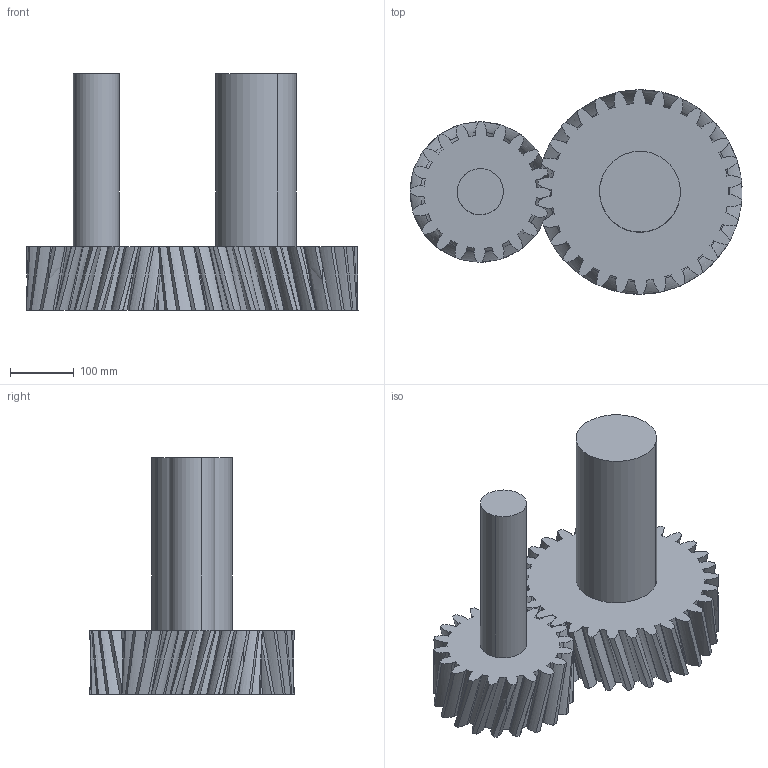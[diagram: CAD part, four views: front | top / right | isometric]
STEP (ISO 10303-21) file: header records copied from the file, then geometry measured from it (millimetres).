
FILE_DESCRIPTION(('CATIA V5 STEP Exchange'),'2;1');
FILE_NAME('C:\Users\YS\Desktop\카티아수업자료\툴바예제\gear.stp','2012-10-30T14:37:45+00:00',('none'),('none'),'CATIA Version 5 Release 18 SP 3 (IN-10)','CATIA V5 STEP AP203','none');
FILE_SCHEMA(('CONFIG_CONTROL_DESIGN'));
Length unit declared in the file: millimetre
Products named in the file (1): ANALISYS_01_ASM
Assembly tree (3 placements, depth 2):
  ANALISYS_01_ASM
    #56
    #8574
    #21802
Bounding box: 519.76 x 320 x 371 mm (x, y, z)
Volume: 14601877.8 mm3; surface area: 821453.5 mm2
Topology: 4 solids, 4 shells, 320 faces, 936 edges, 624 vertices
Faces by surface type: bspline 250, cylinder 62, plane 8
Entity records: 21872 total; most frequent: CARTESIAN_POINT 15306, ORIENTED_EDGE 1872, EDGE_CURVE 936, VERTEX_POINT 624, B_SPLINE_CURVE_WITH_KNOTS 540, DIRECTION 492, EDGE_LOOP 324, ADVANCED_FACE 320
